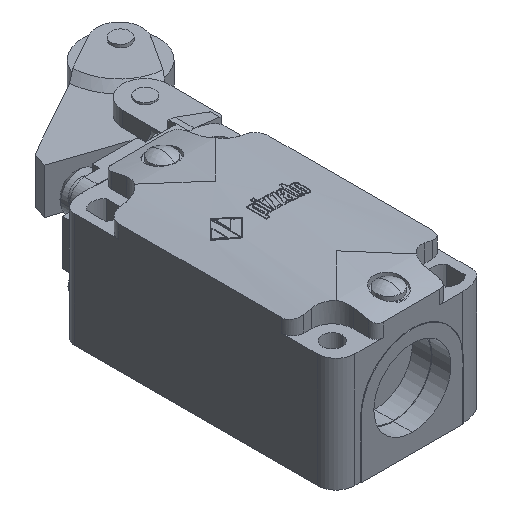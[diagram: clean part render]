
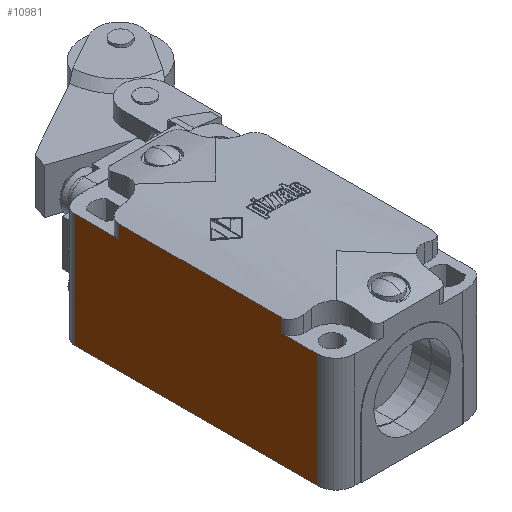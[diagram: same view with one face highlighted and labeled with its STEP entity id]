
A CAD part, isometric view. The second image highlights one B-rep face of the part: STEP entity #10981.
In plain terms, the highlighted planar face has unit normal (-1, 0, 0) as drawn and (1, 0, 0) by its records, which use the part's own axes.
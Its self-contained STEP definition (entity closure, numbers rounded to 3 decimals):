
#76 = CARTESIAN_POINT ( 'NONE',  ( 20., -36.2, -18.76 ) ) ;
#227 = EDGE_LOOP ( 'NONE', ( #6771, #800, #14425, #18206, #7028, #7992, #15278, #15395 ) ) ;
#669 = VERTEX_POINT ( 'NONE', #4138 ) ;
#800 = ORIENTED_EDGE ( 'NONE', *, *, #15521, .F. ) ;
#890 = DIRECTION ( 'NONE',  ( 1., 0., 0. ) ) ;
#1164 = EDGE_CURVE ( 'NONE', #4217, #12612, #6200, .T. ) ;
#1484 = VERTEX_POINT ( 'NONE', #10064 ) ;
#1621 = DIRECTION ( 'NONE',  ( 0., 1., 0. ) ) ;
#1627 = FACE_OUTER_BOUND ( 'NONE', #227, .T. ) ;
#1995 = CARTESIAN_POINT ( 'NONE',  ( 20., 21.5, -18.76 ) ) ;
#2111 = EDGE_CURVE ( 'NONE', #18679, #669, #19654, .T. ) ;
#2615 = VECTOR ( 'NONE', #16428, 1000. ) ;
#2932 = DIRECTION ( 'NONE',  ( 0., 0., 1. ) ) ;
#3013 = EDGE_CURVE ( 'NONE', #5045, #18679, #19381, .T. ) ;
#3064 = LINE ( 'NONE', #76, #18955 ) ;
#3921 = CARTESIAN_POINT ( 'NONE',  ( 20., -31., -21.3 ) ) ;
#3972 = CARTESIAN_POINT ( 'NONE',  ( 20., 21.5, -15.2 ) ) ;
#4138 = CARTESIAN_POINT ( 'NONE',  ( 20., -31., 15. ) ) ;
#4217 = VERTEX_POINT ( 'NONE', #15963 ) ;
#4339 = VECTOR ( 'NONE', #7944, 1000. ) ;
#4498 = CARTESIAN_POINT ( 'NONE',  ( 20., -31., 15. ) ) ;
#4743 = CARTESIAN_POINT ( 'NONE',  ( 20., 33.325, 15. ) ) ;
#5045 = VERTEX_POINT ( 'NONE', #11581 ) ;
#5608 = CARTESIAN_POINT ( 'NONE',  ( 20., -31., -15.2 ) ) ;
#5712 = VECTOR ( 'NONE', #11906, 1000. ) ;
#6200 = LINE ( 'NONE', #14852, #5712 ) ;
#6407 = CARTESIAN_POINT ( 'NONE',  ( 20., -21.5, -15.2 ) ) ;
#6771 = ORIENTED_EDGE ( 'NONE', *, *, #11546, .T. ) ;
#6976 = EDGE_CURVE ( 'NONE', #5045, #1484, #12522, .T. ) ;
#7028 = ORIENTED_EDGE ( 'NONE', *, *, #15914, .F. ) ;
#7806 = VECTOR ( 'NONE', #16819, 1000. ) ;
#7944 = DIRECTION ( 'NONE',  ( 0., 0., -1. ) ) ;
#7992 = ORIENTED_EDGE ( 'NONE', *, *, #2111, .F. ) ;
#8395 = DIRECTION ( 'NONE',  ( 0., 0., -1. ) ) ;
#8834 = AXIS2_PLACEMENT_3D ( 'NONE', #3921, #890, #11650 ) ;
#9577 = EDGE_CURVE ( 'NONE', #4217, #12028, #10795, .T. ) ;
#10064 = CARTESIAN_POINT ( 'NONE',  ( 20., -21.5, -18.76 ) ) ;
#10295 = CARTESIAN_POINT ( 'NONE',  ( 20., 33.325, -21.3 ) ) ;
#10795 = LINE ( 'NONE', #10295, #2615 ) ;
#10981 = ADVANCED_FACE ( 'NONE', ( #1627 ), #19323, .T. ) ;
#11351 = CARTESIAN_POINT ( 'NONE',  ( 20., -21.5, -15.2 ) ) ;
#11465 = VECTOR ( 'NONE', #2932, 1000. ) ;
#11546 = EDGE_CURVE ( 'NONE', #1484, #14999, #3064, .T. ) ;
#11581 = CARTESIAN_POINT ( 'NONE',  ( 20., -21.5, -15.2 ) ) ;
#11650 = DIRECTION ( 'NONE',  ( 0., 1., 0. ) ) ;
#11676 = VECTOR ( 'NONE', #14442, 1000. ) ;
#11906 = DIRECTION ( 'NONE',  ( 0., -1., 0. ) ) ;
#11912 = LINE ( 'NONE', #4498, #7806 ) ;
#12028 = VERTEX_POINT ( 'NONE', #4743 ) ;
#12522 = LINE ( 'NONE', #6407, #4339 ) ;
#12612 = VERTEX_POINT ( 'NONE', #3972 ) ;
#12655 = LINE ( 'NONE', #14535, #16255 ) ;
#14425 = ORIENTED_EDGE ( 'NONE', *, *, #1164, .F. ) ;
#14442 = DIRECTION ( 'NONE',  ( 0., -1., 0. ) ) ;
#14535 = CARTESIAN_POINT ( 'NONE',  ( 20., 21.5, -15.2 ) ) ;
#14852 = CARTESIAN_POINT ( 'NONE',  ( 20., 37., -15.2 ) ) ;
#14999 = VERTEX_POINT ( 'NONE', #1995 ) ;
#15129 = CARTESIAN_POINT ( 'NONE',  ( 20., -31., -21.3 ) ) ;
#15278 = ORIENTED_EDGE ( 'NONE', *, *, #3013, .F. ) ;
#15395 = ORIENTED_EDGE ( 'NONE', *, *, #6976, .T. ) ;
#15521 = EDGE_CURVE ( 'NONE', #12612, #14999, #12655, .T. ) ;
#15914 = EDGE_CURVE ( 'NONE', #669, #12028, #11912, .T. ) ;
#15963 = CARTESIAN_POINT ( 'NONE',  ( 20., 33.325, -15.2 ) ) ;
#16255 = VECTOR ( 'NONE', #8395, 1000. ) ;
#16428 = DIRECTION ( 'NONE',  ( 0., 0., 1. ) ) ;
#16819 = DIRECTION ( 'NONE',  ( 0., 1., 0. ) ) ;
#18206 = ORIENTED_EDGE ( 'NONE', *, *, #9577, .T. ) ;
#18679 = VERTEX_POINT ( 'NONE', #5608 ) ;
#18955 = VECTOR ( 'NONE', #1621, 1000. ) ;
#19323 = PLANE ( 'NONE',  #8834 ) ;
#19381 = LINE ( 'NONE', #11351, #11676 ) ;
#19654 = LINE ( 'NONE', #15129, #11465 ) ;
